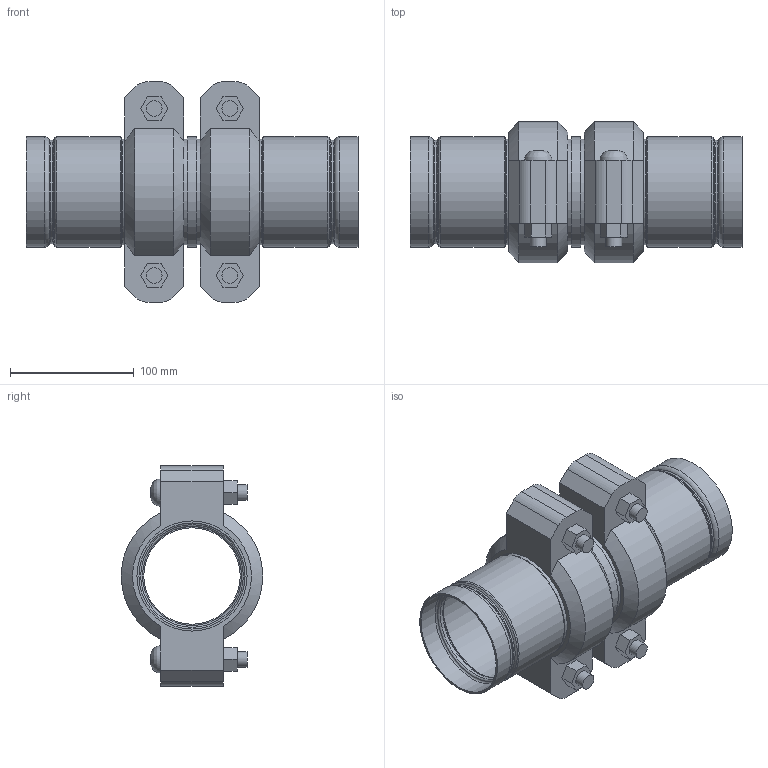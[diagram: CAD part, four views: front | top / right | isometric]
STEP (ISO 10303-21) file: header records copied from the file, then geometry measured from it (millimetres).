
FILE_DESCRIPTION(/* description */ ('VIC STRENGTHIN 100 EXPANSION JOINT 2 COUPLINGS EXPANDED STYLE E155 (ST1)','CAx-IF Rec.Pracs.---Representation and Presentation of Product Manufacturing Information (PMI)---4.0---2014-10-13'),/* implementation_level */ '2;1');
FILE_NAME(/* name */ 'C:\Users\Vjadhav\AppData\Roaming\Autodesk\ApplicationPlugins\Victaulic.Temp\A901\Victaulic_SS-StrengThin 100_Expansion Joint_Expanded_2 Couplings_Style E155 (ST1)_3 (80).stp',/* time_stamp */ '2021-07-23T19:26:56+06:00',/* author */ ('kkamble'),/* organization */ ('Victaulic'),/* preprocessor_version */ 'ST-DEVELOPER v17.2',/* originating_system */ 'Autodesk Inventor 2019',/* authorisation */ '');
FILE_SCHEMA (('AP242_MANAGED_MODEL_BASED_3D_ENGINEERING_MIM_LF { 1 0 10303 442 1 1 4 }'));
Length unit declared in the file: inch
Products named in the file (4): E155-03.0; E494G-03.0; Nipple-03.0; 075-03.0
Assembly tree (5 placements, depth 2):
  E155-03.0
    E494G-03.0  x2
    Nipple-03.0
    075-03.0  x2
Bounding box: 267.97 x 113.88 x 177.8 mm (x, y, z)
Volume: 832511.5 mm3; surface area: 274689 mm2
Topology: 5 solids, 9 shells, 194 faces, 518 edges, 370 vertices
Faces by surface type: plane 90, cylinder 56, torus 32, cone 12, bspline 4
Full cylindrical faces by diameter (mm): 12.7 x8, 14.605 x4, 77.927 x1, 79.985 x2, 81.737 x2, 82.55 x2, 83.185 x2, 84.938 x4, 85.7 x6, 88.9 x13
Entity records: 3702 total; most frequent: DIRECTION 653, CARTESIAN_POINT 651, ORIENTED_EDGE 548, AXIS2_PLACEMENT_3D 277, EDGE_CURVE 274, VERTEX_POINT 197, CIRCLE 167, EDGE_LOOP 129
